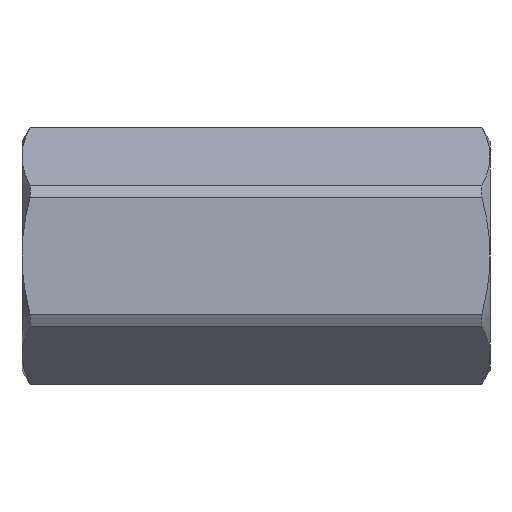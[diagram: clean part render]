
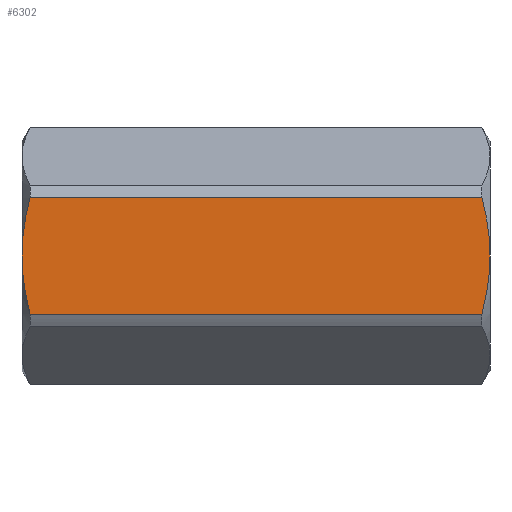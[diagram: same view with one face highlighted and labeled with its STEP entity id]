
A CAD part, front view. The second image highlights one B-rep face of the part: STEP entity #6302.
In plain terms, the highlighted planar face has unit normal (0, -1, 0).
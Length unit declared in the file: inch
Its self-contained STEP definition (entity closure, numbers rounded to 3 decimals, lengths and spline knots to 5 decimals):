
#861 = CARTESIAN_POINT ( 'NONE',  ( 1.03484, -0.48228, 0.11988 ) ) ;
#1120 = PLANE ( 'NONE',  #5656 ) ;
#1263 = CARTESIAN_POINT ( 'NONE',  ( 1.12598, -0.48228, -0.27845 ) ) ;
#1289 = CARTESIAN_POINT ( 'NONE',  ( 1.03437, -0.48228, 0.12317 ) ) ;
#1976 = CARTESIAN_POINT ( 'NONE',  ( -0.90959, -0.48228, -0.14121 ) ) ;
#2022 = CARTESIAN_POINT ( 'NONE',  ( 1.03413, -0.48228, -0.12485 ) ) ;
#2122 = CARTESIAN_POINT ( 'NONE',  ( -0.91723, -0.48228, -0.08249 ) ) ;
#2167 = B_SPLINE_CURVE_WITH_KNOTS ( 'NONE', 3,
 ( #22190, #25133, #6739, #18063, #17770, #26757, #22621, #27342, #2022, #27048, #7175, #6881, #4978 ),
 .UNSPECIFIED., .F., .F.,
 ( 4, 1, 1, 1, 1, 1, 2, 2, 4 ),
 ( 0., 0.25, 0.375, 0.4375, 0.46875, 0.48437, 0.49219, 0.5, 1. ),
 .UNSPECIFIED. ) ;
#3086 = CARTESIAN_POINT ( 'NONE',  ( -0.92126, -0.48228, 0.24587 ) ) ;
#4081 = CARTESIAN_POINT ( 'NONE',  ( -0.90638, -0.48228, 0.16438 ) ) ;
#4095 = DIRECTION ( 'NONE',  ( 1., 0., 0. ) ) ;
#4195 = CARTESIAN_POINT ( 'NONE',  ( -0.90568, -0.48228, -0.16386 ) ) ;
#4221 = DIRECTION ( 'NONE',  ( -1., 0., 0. ) ) ;
#4563 = EDGE_LOOP ( 'NONE', ( #25179, #12067, #6292, #28291, #7850, #19603 ) ) ;
#4978 = CARTESIAN_POINT ( 'NONE',  ( 1.04331, -0.48228, 0. ) ) ;
#5301 = B_SPLINE_CURVE_WITH_KNOTS ( 'NONE', 3,
 ( #14376, #9971, #16738, #25869, #12031, #25577, #861, #21164, #1289, #23515, #16594, #18667, #25721 ),
 .UNSPECIFIED., .F., .F.,
 ( 4, 1, 1, 1, 1, 1, 2, 2, 4 ),
 ( 0., 0.25, 0.375, 0.4375, 0.46875, 0.48437, 0.49219, 0.5, 1. ),
 .UNSPECIFIED. ) ;
#5329 = EDGE_CURVE ( 'NONE', #23080, #14914, #17976, .T. ) ;
#5656 = AXIS2_PLACEMENT_3D ( 'NONE', #1263, #10231, #12442 ) ;
#6258 = CARTESIAN_POINT ( 'NONE',  ( -0.91672, -0.48228, -0.08762 ) ) ;
#6292 = ORIENTED_EDGE ( 'NONE', *, *, #22745, .T. ) ;
#6302 = ADVANCED_FACE ( 'NONE', ( #16856 ), #1120, .T. ) ;
#6316 = CARTESIAN_POINT ( 'NONE',  ( 1.00921, -0.48228, -0.24587 ) ) ;
#6401 = CARTESIAN_POINT ( 'NONE',  ( -0.9205, -0.48229, -0.04122 ) ) ;
#6551 = CARTESIAN_POINT ( 'NONE',  ( -0.91077, -0.48228, -0.13367 ) ) ;
#6739 = CARTESIAN_POINT ( 'NONE',  ( 1.02209, -0.48228, -0.19345 ) ) ;
#6872 = CARTESIAN_POINT ( 'NONE',  ( -0.89805, -0.48228, 0.20434 ) ) ;
#6881 = CARTESIAN_POINT ( 'NONE',  ( 1.04331, -0.48228, -0.04056 ) ) ;
#7175 = CARTESIAN_POINT ( 'NONE',  ( 1.04031, -0.48228, -0.08177 ) ) ;
#7376 = CARTESIAN_POINT ( 'NONE',  ( 1.00921, -0.48228, 0.24587 ) ) ;
#7850 = ORIENTED_EDGE ( 'NONE', *, *, #14988, .F. ) ;
#8632 = CARTESIAN_POINT ( 'NONE',  ( -0.91971, -0.48228, 0.05196 ) ) ;
#9474 = CARTESIAN_POINT ( 'NONE',  ( 1.04331, -0.48228, 0. ) ) ;
#9971 = CARTESIAN_POINT ( 'NONE',  ( 1.04331, -0.48228, 0.02041 ) ) ;
#10231 = DIRECTION ( 'NONE',  ( 0., -1., 0. ) ) ;
#10964 = CARTESIAN_POINT ( 'NONE',  ( -0.90833, -0.48228, -0.14876 ) ) ;
#11109 = CARTESIAN_POINT ( 'NONE',  ( -0.91817, -0.48229, -0.07224 ) ) ;
#12031 = CARTESIAN_POINT ( 'NONE',  ( 1.03668, -0.48228, 0.10608 ) ) ;
#12067 = ORIENTED_EDGE ( 'NONE', *, *, #15856, .T. ) ;
#12268 = EDGE_CURVE ( 'NONE', #22352, #23704, #23240, .T. ) ;
#12442 = DIRECTION ( 'NONE',  ( 0., 0., -1. ) ) ;
#12867 = CARTESIAN_POINT ( 'NONE',  ( -0.91504, -0.48228, -0.10301 ) ) ;
#13306 = CARTESIAN_POINT ( 'NONE',  ( -0.89265, -0.48228, -0.22495 ) ) ;
#13411 = CARTESIAN_POINT ( 'NONE',  ( -0.92126, -0.48228, 0. ) ) ;
#14376 = CARTESIAN_POINT ( 'NONE',  ( 1.04331, -0.48228, 0. ) ) ;
#14914 = VERTEX_POINT ( 'NONE', #13411 ) ;
#14988 = EDGE_CURVE ( 'NONE', #14914, #22352, #17178, .T. ) ;
#15210 = CARTESIAN_POINT ( 'NONE',  ( -0.91859, -0.48229, -0.06717 ) ) ;
#15242 = CARTESIAN_POINT ( 'NONE',  ( -0.91231, -0.48228, 0.12324 ) ) ;
#15692 = CARTESIAN_POINT ( 'NONE',  ( -0.91553, -0.48228, 0.0985 ) ) ;
#15856 = EDGE_CURVE ( 'NONE', #16570, #24812, #2167, .T. ) ;
#16570 = VERTEX_POINT ( 'NONE', #6316 ) ;
#16594 = CARTESIAN_POINT ( 'NONE',  ( 1.02859, -0.48228, 0.16326 ) ) ;
#16738 = CARTESIAN_POINT ( 'NONE',  ( 1.04217, -0.48228, 0.05128 ) ) ;
#16856 = FACE_OUTER_BOUND ( 'NONE', #4563, .T. ) ;
#17178 = B_SPLINE_CURVE_WITH_KNOTS ( 'NONE', 3,
 ( #21317, #17761, #22611, #28805, #8632, #26893, #24227, #15692, #22181, #19819, #26746, #22032, #15242, #4081, #6872, #17614 ),
 .UNSPECIFIED., .F., .F.,
 ( 4, 2, 2, 2, 1, 1, 2, 2, 4 ),
 ( 0., 0.125, 0.25, 0.375, 0.4375, 0.46875, 0.48437, 0.5, 1. ),
 .UNSPECIFIED. ) ;
#17288 = CARTESIAN_POINT ( 'NONE',  ( -0.91189, -0.48228, -0.12621 ) ) ;
#17319 = EDGE_CURVE ( 'NONE', #16570, #23080, #17604, .T. ) ;
#17604 = LINE ( 'NONE', #28358, #24883 ) ;
#17614 = CARTESIAN_POINT ( 'NONE',  ( -0.88716, -0.48228, 0.24587 ) ) ;
#17727 = CARTESIAN_POINT ( 'NONE',  ( -0.90375, -0.48227, -0.17397 ) ) ;
#17761 = CARTESIAN_POINT ( 'NONE',  ( -0.92126, -0.48228, 0.0104 ) ) ;
#17770 = CARTESIAN_POINT ( 'NONE',  ( 1.0317, -0.48228, -0.14081 ) ) ;
#17875 = CARTESIAN_POINT ( 'NONE',  ( -0.91374, -0.48228, -0.11329 ) ) ;
#17976 = B_SPLINE_CURVE_WITH_KNOTS ( 'NONE', 3,
 ( #19935, #13306, #26561, #17727, #4195, #10964, #1976, #6551, #22293, #17288, #17875, #12867, #6258, #2122, #11109, #15210, #6401, #19637, #24191 ),
 .UNSPECIFIED., .F., .F.,
 ( 4, 2, 2, 1, 2, 2, 2, 2, 2, 4 ),
 ( 0., 0.25, 0.375, 0.4375, 0.46875, 0.5, 0.625, 0.6875, 0.75, 1. ),
 .UNSPECIFIED. ) ;
#18063 = CARTESIAN_POINT ( 'NONE',  ( 1.0288, -0.48228, -0.15817 ) ) ;
#18154 = CARTESIAN_POINT ( 'NONE',  ( -0.88716, -0.48228, -0.24587 ) ) ;
#18667 = CARTESIAN_POINT ( 'NONE',  ( 1.02026, -0.48228, 0.20372 ) ) ;
#19553 = CARTESIAN_POINT ( 'NONE',  ( -0.88716, -0.48228, 0.24587 ) ) ;
#19603 = ORIENTED_EDGE ( 'NONE', *, *, #5329, .F. ) ;
#19637 = CARTESIAN_POINT ( 'NONE',  ( -0.92126, -0.48228, -0.02067 ) ) ;
#19819 = CARTESIAN_POINT ( 'NONE',  ( -0.91341, -0.48228, 0.11537 ) ) ;
#19935 = CARTESIAN_POINT ( 'NONE',  ( -0.88716, -0.48228, -0.24587 ) ) ;
#21164 = CARTESIAN_POINT ( 'NONE',  ( 1.03456, -0.48228, 0.12186 ) ) ;
#21317 = CARTESIAN_POINT ( 'NONE',  ( -0.92126, -0.48228, 0. ) ) ;
#22032 = CARTESIAN_POINT ( 'NONE',  ( -0.91251, -0.48228, 0.12188 ) ) ;
#22181 = CARTESIAN_POINT ( 'NONE',  ( -0.91461, -0.48228, 0.10627 ) ) ;
#22190 = CARTESIAN_POINT ( 'NONE',  ( 1.00921, -0.48228, -0.24587 ) ) ;
#22293 = CARTESIAN_POINT ( 'NONE',  ( -0.91153, -0.48228, -0.12865 ) ) ;
#22352 = VERTEX_POINT ( 'NONE', #19553 ) ;
#22611 = CARTESIAN_POINT ( 'NONE',  ( -0.92107, -0.48228, 0.02076 ) ) ;
#22621 = CARTESIAN_POINT ( 'NONE',  ( 1.03368, -0.48228, -0.12791 ) ) ;
#22745 = EDGE_CURVE ( 'NONE', #24812, #23704, #5301, .T. ) ;
#23080 = VERTEX_POINT ( 'NONE', #18154 ) ;
#23240 = LINE ( 'NONE', #3086, #24767 ) ;
#23515 = CARTESIAN_POINT ( 'NONE',  ( 1.03427, -0.48228, 0.12388 ) ) ;
#23704 = VERTEX_POINT ( 'NONE', #7376 ) ;
#24191 = CARTESIAN_POINT ( 'NONE',  ( -0.92126, -0.48228, 0. ) ) ;
#24227 = CARTESIAN_POINT ( 'NONE',  ( -0.91723, -0.48228, 0.08297 ) ) ;
#24767 = VECTOR ( 'NONE', #4095, 39.37008 ) ;
#24812 = VERTEX_POINT ( 'NONE', #9474 ) ;
#24883 = VECTOR ( 'NONE', #4221, 39.37008 ) ;
#25133 = CARTESIAN_POINT ( 'NONE',  ( 1.01478, -0.48228, -0.22464 ) ) ;
#25179 = ORIENTED_EDGE ( 'NONE', *, *, #17319, .F. ) ;
#25577 = CARTESIAN_POINT ( 'NONE',  ( 1.03547, -0.48228, 0.11527 ) ) ;
#25721 = CARTESIAN_POINT ( 'NONE',  ( 1.00921, -0.48228, 0.24587 ) ) ;
#25869 = CARTESIAN_POINT ( 'NONE',  ( 1.03884, -0.48228, 0.08774 ) ) ;
#26561 = CARTESIAN_POINT ( 'NONE',  ( -0.89748, -0.48227, -0.20443 ) ) ;
#26746 = CARTESIAN_POINT ( 'NONE',  ( -0.91287, -0.48228, 0.11928 ) ) ;
#26757 = CARTESIAN_POINT ( 'NONE',  ( 1.03304, -0.48228, -0.13219 ) ) ;
#26893 = CARTESIAN_POINT ( 'NONE',  ( -0.91818, -0.48228, 0.07264 ) ) ;
#27048 = CARTESIAN_POINT ( 'NONE',  ( 1.03421, -0.48228, -0.12428 ) ) ;
#27342 = CARTESIAN_POINT ( 'NONE',  ( 1.03395, -0.48228, -0.12607 ) ) ;
#28291 = ORIENTED_EDGE ( 'NONE', *, *, #12268, .F. ) ;
#28358 = CARTESIAN_POINT ( 'NONE',  ( -0.92126, -0.48228, -0.24587 ) ) ;
#28805 = CARTESIAN_POINT ( 'NONE',  ( -0.9203, -0.48228, 0.0415 ) ) ;
